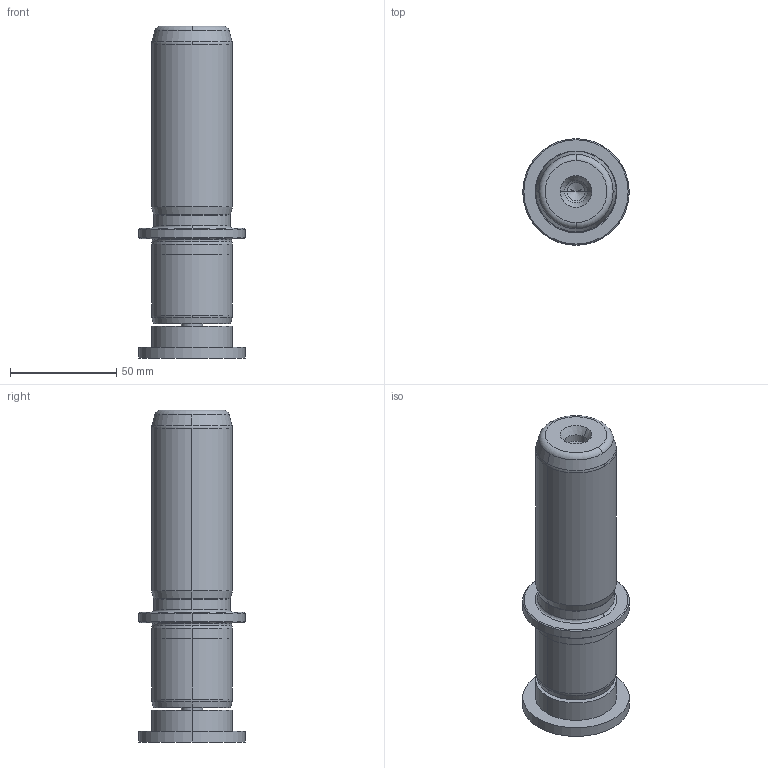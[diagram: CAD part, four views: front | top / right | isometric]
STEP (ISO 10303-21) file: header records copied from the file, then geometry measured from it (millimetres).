
FILE_DESCRIPTION((''),'2;1');
FILE_NAME('P22_038_100.stp','2009-02-16T09:13:41',(''),(''),'Mechanical Desktop 2009','Mechanical Desktop 2009',', , ');
FILE_SCHEMA(('CONFIG_CONTROL_DESIGN'));
Length unit declared in the file: millimetre
Products named in the file (2): Product; blmdl1
Assembly tree (1 placements, depth 2):
  Product
    blmdl1
Bounding box: 50 x 50 x 156 mm (x, y, z)
Volume: 178232.1 mm3; surface area: 30179.9 mm2
Topology: 3 solids, 3 shells, 99 faces, 237 edges, 149 vertices
Faces by surface type: cylinder 32, cone 28, plane 19, torus 10, bspline 10
Entity records: 3419 total; most frequent: CARTESIAN_POINT 923, DIRECTION 570, ORIENTED_EDGE 466, AXIS2_PLACEMENT_3D 246, EDGE_CURVE 233, CIRCLE 155, VERTEX_POINT 149, EDGE_LOOP 110
